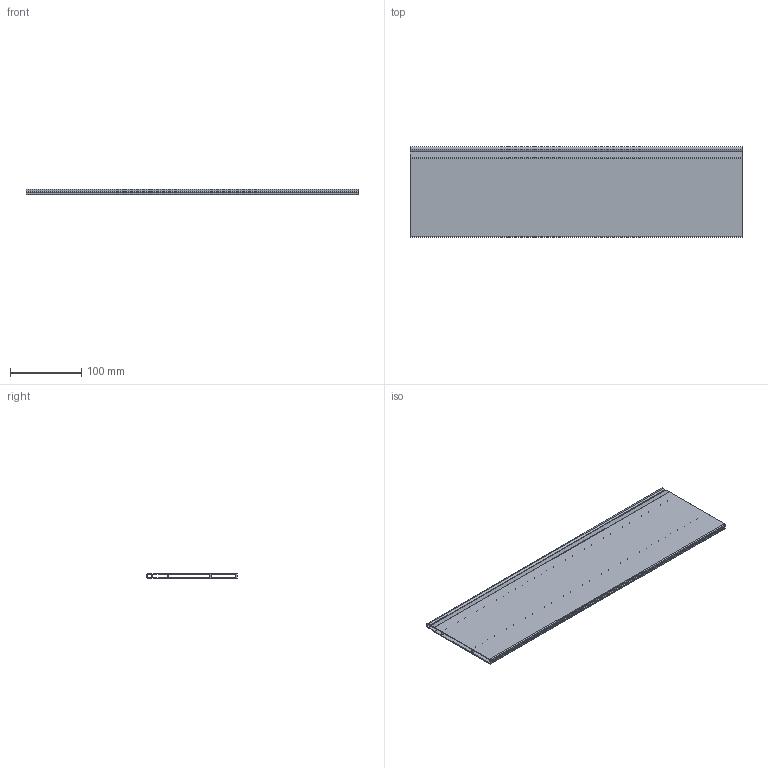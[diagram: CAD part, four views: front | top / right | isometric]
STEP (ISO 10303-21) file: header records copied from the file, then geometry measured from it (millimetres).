
FILE_DESCRIPTION (( 'STEP AP214' ), '1' );
FILE_NAME ('_Magic Optima Unterteilungsprofil DWD XP KAB 600.step', '2010-08-17T12:26:37', ( 'grass' ), ( '' ), 'SwSTEP 2.0', 'SolidWorks 2010', '' );
FILE_SCHEMA (( 'AUTOMOTIVE_DESIGN' ));
Length unit declared in the file: millimetre
Products named in the file (1): _Magic Optima Unterteilungsprofil DWD XP  KAB 600
Bounding box: 466 x 127.7 x 8.1 mm (x, y, z)
Volume: 163343.9 mm3; surface area: 253365.6 mm2
Topology: 1 solids, 1 shells, 39 faces, 111 edges, 74 vertices
Faces by surface type: plane 22, cylinder 17
Entity records: 1325 total; most frequent: DIRECTION 225, CARTESIAN_POINT 225, ORIENTED_EDGE 222, EDGE_CURVE 111, LINE 77, VECTOR 77, AXIS2_PLACEMENT_3D 74, VERTEX_POINT 74
